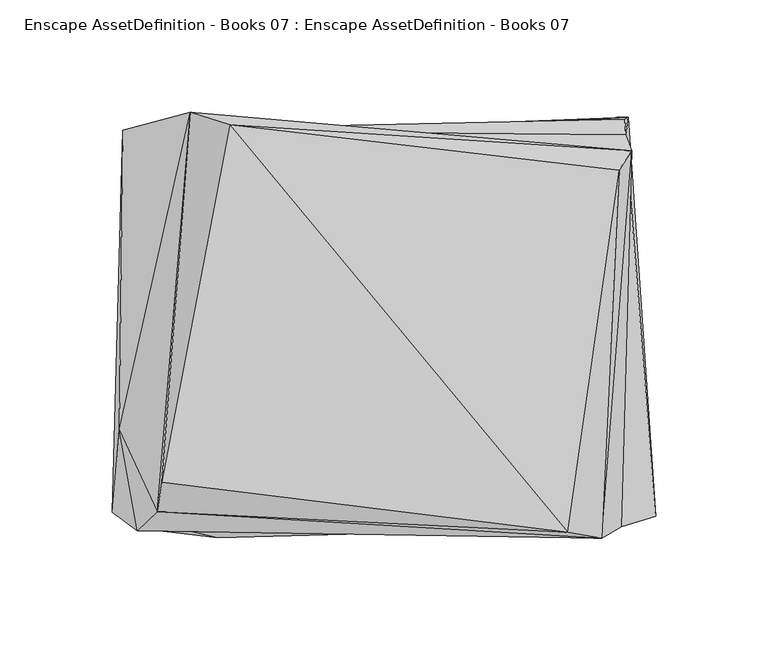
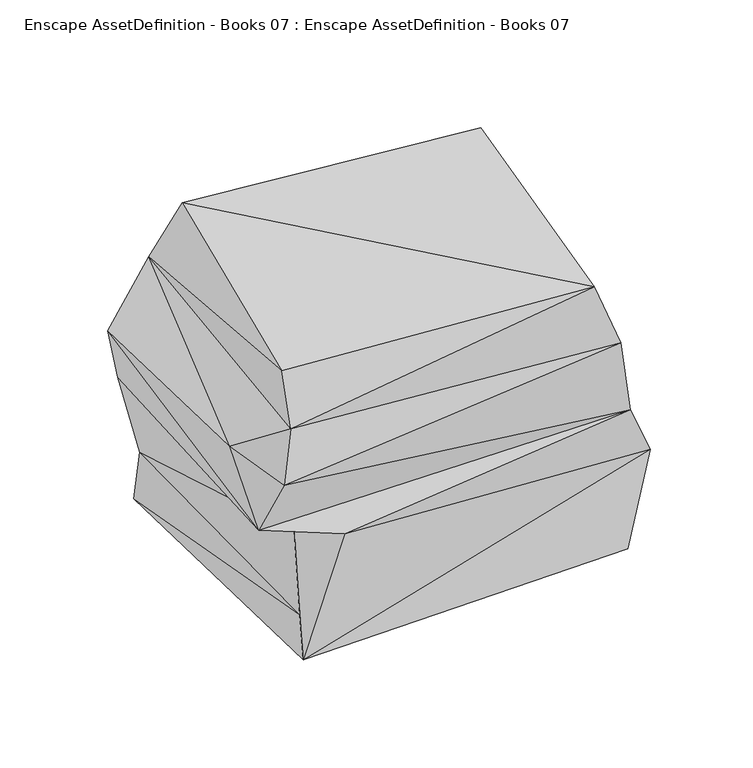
"""IFC4 building model written with IfcOpenShell, lengths in millimetres: geographic element geometry, Enscape AssetDefinition - Books 07 : Enscape AssetDefinition - Books 07."""

from ifc_helpers import new_model, si_unit, origin, place, context, project, spatial, faceted_brep, source, transform, mapped, element, save


def enscape_assetdefinition_books_07_enscape_assetdefinition_6df3b323(model_context):
    return source(origin(), model_context, "Body", "Brep", [
        faceted_brep([(78.0924559, -93.6252847, 181.5980226), (-102.4210081, -71.265541, 176.2390882), (-104.5590639, -84.5497921, 147.3270208), (-89.8396522, 93.171075, 146.9919682), (-72.270669, 87.6774266, 179.532513), (-121.3267148, -47.9507521, 119.5081621), (-113.4497672, -92.979379, 118.4598505), (93.2298005, -96.2106362, 141.3359791), (101.0359302, 67.5075427, 180.0316274), (106.588304, 76.0338455, 141.0907507), (-119.7706684, 85.3390396, 113.5516688), (-124.4059876, -84.6257806, 87.7741426), (101.9978896, -91.0796598, 91.4026126), (103.8958877, 83.2165256, 110.5690971), (-117.7431419, 78.3359706, 86.8760869), (103.5936549, 90.1108012, 83.6517364), (-77.6417032, -95.9705785, 75.7989734), (-93.4957564, -69.0618604, 67.0412481), (117.2043085, -86.3977075, 57.3336557), (104.9752757, 90.9466818, 29.6529606), (-101.6783863, 82.4462771, 29.5562465), (-101.7716452, -93.2004377, 0.0), (-100.4642919, -86.9503468, 25.5132876), (97.3262936, 87.2387663, 0.0), (101.0929272, -90.1505202, 0.0), (-105.2999571, 82.7467814, 0.0)], [[[0, 1, 2]], [[3, 2, 1]], [[3, 1, 4]], [[0, 4, 1]], [[5, 6, 2]], [[0, 2, 7]], [[7, 2, 6]], [[3, 5, 2]], [[8, 0, 7]], [[4, 0, 8]], [[9, 3, 4]], [[8, 9, 4]], [[10, 5, 3]], [[9, 10, 3]], [[5, 11, 6]], [[10, 11, 5]], [[7, 6, 12]], [[11, 12, 6]], [[12, 9, 7]], [[9, 8, 7]], [[13, 9, 12]], [[13, 10, 9]], [[14, 11, 10]], [[10, 15, 14]], [[13, 15, 10]], [[16, 12, 11]], [[14, 17, 11]], [[17, 16, 11]], [[12, 16, 18]], [[18, 13, 12]], [[19, 13, 18]], [[19, 15, 13]], [[14, 15, 19]], [[20, 14, 19]], [[14, 20, 17]], [[16, 17, 21]], [[21, 17, 22]], [[17, 20, 22]], [[21, 18, 16]], [[23, 18, 24]], [[24, 18, 21]], [[19, 18, 23]], [[20, 19, 25]], [[19, 23, 25]], [[20, 25, 22]], [[22, 25, 21]], [[21, 25, 24]], [[25, 23, 24]]]),
    ])


if __name__ == "__main__":
    model = new_model("IFC4")
    model_context = context("Model", 3, world=origin())
    ifc_project = project(units=[si_unit("LENGTHUNIT", "METRE", prefix="MILLI")], contexts=[model_context])
    site = spatial("IfcSite", under=ifc_project)
    building = spatial("IfcBuilding", under=site)
    placement = place(None, origin())
    enscape_assetdefinition_books_07_enscape_assetdefinition_shape = enscape_assetdefinition_books_07_enscape_assetdefinition_6df3b323(model_context)
    element("IfcGeographicElement", 1, ObjectType="Enscape AssetDefinition - Books 07 : Enscape AssetDefinition - Books 07", at=placement, inside=building, context=model_context, shape_type="MappedRepresentation", body=[
        mapped(enscape_assetdefinition_books_07_enscape_assetdefinition_shape, transform((0.0, 0.0, 0.0), x_axis=(1.0, 0.0, 0.0), y_axis=(0.0, 1.0, 0.0), z_axis=(0.0, 0.0, 1.0))),
    ])
    save(model, "model.ifc")
